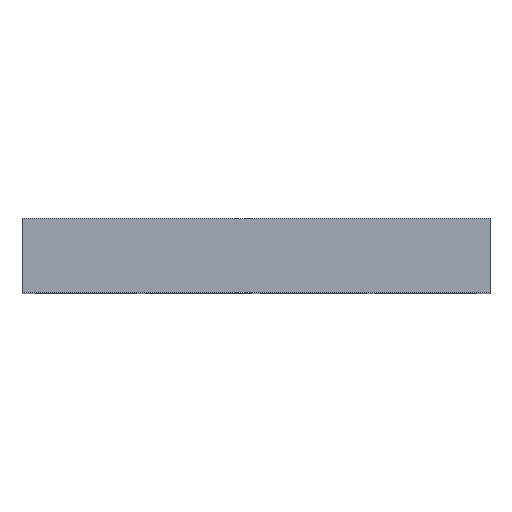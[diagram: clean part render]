
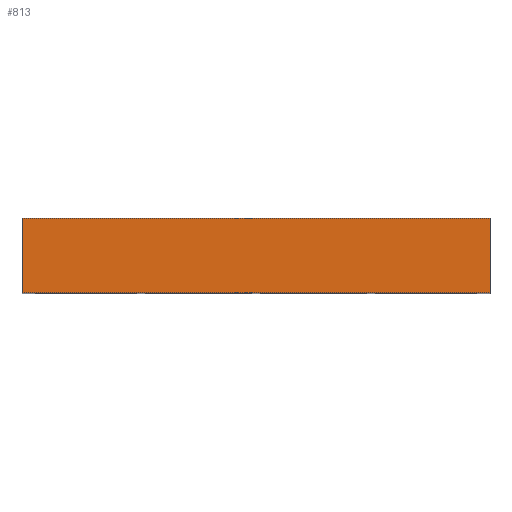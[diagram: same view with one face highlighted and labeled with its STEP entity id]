
A CAD part, top view. The second image highlights one B-rep face of the part: STEP entity #813.
In plain terms, the highlighted planar face has unit normal (0, 0, 1).
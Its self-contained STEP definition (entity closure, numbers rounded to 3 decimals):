
#17 = LINE ( 'NONE', #1001, #208 ) ;
#18 = EDGE_LOOP ( 'NONE', ( #134, #113, #114, #142 ) ) ;
#86 = VECTOR ( 'NONE', #990, 1000. ) ;
#113 = ORIENTED_EDGE ( 'NONE', *, *, #620, .F. ) ;
#114 = ORIENTED_EDGE ( 'NONE', *, *, #623, .F. ) ;
#134 = ORIENTED_EDGE ( 'NONE', *, *, #630, .T. ) ;
#142 = ORIENTED_EDGE ( 'NONE', *, *, #634, .T. ) ;
#208 = VECTOR ( 'NONE', #1004, 1000. ) ;
#317 = LINE ( 'NONE', #987, #86 ) ;
#332 = LINE ( 'NONE', #983, #334 ) ;
#334 = VECTOR ( 'NONE', #984, 1000. ) ;
#347 = VECTOR ( 'NONE', #1012, 1000. ) ;
#352 = LINE ( 'NONE', #1011, #347 ) ;
#547 = FACE_OUTER_BOUND ( 'NONE', #18, .T. ) ;
#620 = EDGE_CURVE ( 'NONE', #913, #911, #332, .T. ) ;
#623 = EDGE_CURVE ( 'NONE', #906, #913, #317, .T. ) ;
#630 = EDGE_CURVE ( 'NONE', #889, #911, #17, .T. ) ;
#634 = EDGE_CURVE ( 'NONE', #906, #889, #352, .T. ) ;
#758 = AXIS2_PLACEMENT_3D ( 'NONE', #1245, #1251, #1252 ) ;
#813 = ADVANCED_FACE ( 'NONE', ( #547 ), #1242, .F. ) ;
#889 = VERTEX_POINT ( 'NONE', #1429 ) ;
#906 = VERTEX_POINT ( 'NONE', #1446 ) ;
#911 = VERTEX_POINT ( 'NONE', #1451 ) ;
#913 = VERTEX_POINT ( 'NONE', #1453 ) ;
#983 = CARTESIAN_POINT ( 'NONE',  ( 204., 65., 214.5 ) ) ;
#984 = DIRECTION ( 'NONE',  ( 0., -1., 0. ) ) ;
#987 = CARTESIAN_POINT ( 'NONE',  ( -204., 65., 214.5 ) ) ;
#990 = DIRECTION ( 'NONE',  ( 1., 0., 0. ) ) ;
#1001 = CARTESIAN_POINT ( 'NONE',  ( -204., 0., 214.5 ) ) ;
#1004 = DIRECTION ( 'NONE',  ( 1., 0., 0. ) ) ;
#1011 = CARTESIAN_POINT ( 'NONE',  ( -204., 65., 214.5 ) ) ;
#1012 = DIRECTION ( 'NONE',  ( 0., -1., 0. ) ) ;
#1242 = PLANE ( 'NONE',  #758 ) ;
#1245 = CARTESIAN_POINT ( 'NONE',  ( -204., 65., 214.5 ) ) ;
#1251 = DIRECTION ( 'NONE',  ( 0., 0., -1. ) ) ;
#1252 = DIRECTION ( 'NONE',  ( -1., 0., 0. ) ) ;
#1429 = CARTESIAN_POINT ( 'NONE',  ( -204., 0., 214.5 ) ) ;
#1446 = CARTESIAN_POINT ( 'NONE',  ( -204., 65., 214.5 ) ) ;
#1451 = CARTESIAN_POINT ( 'NONE',  ( 204., 0., 214.5 ) ) ;
#1453 = CARTESIAN_POINT ( 'NONE',  ( 204., 65., 214.5 ) ) ;
